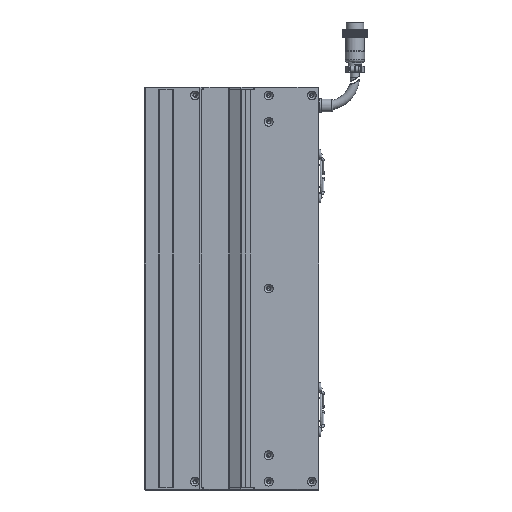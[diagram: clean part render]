
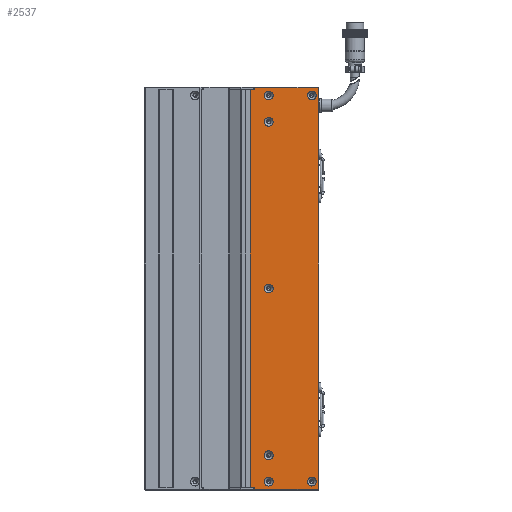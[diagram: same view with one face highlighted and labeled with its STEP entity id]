
A CAD part, left-side view. The second image highlights one B-rep face of the part: STEP entity #2537.
In plain terms, the highlighted planar face has unit normal (-1, 0, 0).
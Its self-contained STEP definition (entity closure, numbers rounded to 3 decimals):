
#117 = LINE ( 'NONE', #54051, #23086 ) ;
#165 = DIRECTION ( 'NONE',  ( 0., 0., 1. ) ) ;
#2537 = ADVANCED_FACE ( 'NONE', ( #95445, #55581, #29406, #118487, #30888, #3222, #103081, #104698 ), #124365, .F. ) ;
#2708 = EDGE_CURVE ( 'NONE', #81108, #85988, #86073, .T. ) ;
#3222 = FACE_BOUND ( 'NONE', #104048, .T. ) ;
#3223 = ORIENTED_EDGE ( 'NONE', *, *, #87356, .F. ) ;
#3784 = EDGE_CURVE ( 'NONE', #117081, #117081, #32258, .T. ) ;
#3853 = CARTESIAN_POINT ( 'NONE',  ( -24.998, -72., 144.5 ) ) ;
#4009 = EDGE_CURVE ( 'NONE', #39329, #81108, #55338, .T. ) ;
#7783 = VERTEX_POINT ( 'NONE', #9653 ) ;
#8419 = DIRECTION ( 'NONE',  ( 0., 0., 1. ) ) ;
#8444 = AXIS2_PLACEMENT_3D ( 'NONE', #39330, #109680, #165 ) ;
#9653 = CARTESIAN_POINT ( 'NONE',  ( -24.998, -36.5, 123.15 ) ) ;
#12363 = DIRECTION ( 'NONE',  ( 0., 0., 1. ) ) ;
#14061 = VERTEX_POINT ( 'NONE', #55699 ) ;
#14857 = CIRCLE ( 'NONE', #53828, 3.15 ) ;
#15333 = EDGE_CURVE ( 'NONE', #73959, #73959, #39363, .T. ) ;
#15488 = VECTOR ( 'NONE', #95346, 1000. ) ;
#15580 = EDGE_CURVE ( 'NONE', #41734, #41734, #33020, .T. ) ;
#15769 = CARTESIAN_POINT ( 'NONE',  ( -24.998, -36.5, 139. ) ) ;
#17710 = ORIENTED_EDGE ( 'NONE', *, *, #55263, .F. ) ;
#17876 = VECTOR ( 'NONE', #75688, 1000. ) ;
#21539 = AXIS2_PLACEMENT_3D ( 'NONE', #23430, #81905, #53592 ) ;
#22791 = EDGE_CURVE ( 'NONE', #124082, #103274, #117, .T. ) ;
#23086 = VECTOR ( 'NONE', #33440, 1000. ) ;
#23430 = CARTESIAN_POINT ( 'NONE',  ( -24.998, -36.5, -139. ) ) ;
#23436 = CARTESIAN_POINT ( 'NONE',  ( -24.998, -26.5, -144.5 ) ) ;
#23473 = CARTESIAN_POINT ( 'NONE',  ( -24.998, -72.5, -143. ) ) ;
#25821 = DIRECTION ( 'NONE',  ( -1., 0., 0. ) ) ;
#26589 = CARTESIAN_POINT ( 'NONE',  ( -24.998, -72.5, 143. ) ) ;
#28017 = CARTESIAN_POINT ( 'NONE',  ( -24.998, -72., 143. ) ) ;
#29149 = EDGE_CURVE ( 'NONE', #103274, #64843, #110201, .T. ) ;
#29406 = FACE_BOUND ( 'NONE', #100670, .T. ) ;
#29480 = ORIENTED_EDGE ( 'NONE', *, *, #47840, .F. ) ;
#29822 = EDGE_CURVE ( 'NONE', #39329, #124082, #108650, .T. ) ;
#30253 = CARTESIAN_POINT ( 'NONE',  ( -24.998, -67.5, 142.15 ) ) ;
#30888 = FACE_BOUND ( 'NONE', #109358, .T. ) ;
#31416 = AXIS2_PLACEMENT_3D ( 'NONE', #15769, #45038, #44606 ) ;
#31903 = EDGE_CURVE ( 'NONE', #14061, #14061, #47029, .T. ) ;
#32258 = CIRCLE ( 'NONE', #102008, 3.15 ) ;
#32556 = CIRCLE ( 'NONE', #31416, 3.15 ) ;
#33020 = CIRCLE ( 'NONE', #93105, 3.15 ) ;
#33440 = DIRECTION ( 'NONE',  ( 0., 1., 0. ) ) ;
#33467 = DIRECTION ( 'NONE',  ( 0., -1., 0. ) ) ;
#34224 = CARTESIAN_POINT ( 'NONE',  ( -24.998, -26.5, 136. ) ) ;
#36287 = EDGE_LOOP ( 'NONE', ( #50768 ) ) ;
#36760 = CARTESIAN_POINT ( 'NONE',  ( -24.998, -67.5, -135.85 ) ) ;
#38373 = ORIENTED_EDGE ( 'NONE', *, *, #4009, .F. ) ;
#39164 = EDGE_CURVE ( 'NONE', #106536, #85988, #40185, .T. ) ;
#39329 = VERTEX_POINT ( 'NONE', #96081 ) ;
#39330 = CARTESIAN_POINT ( 'NONE',  ( -24.998, -67.5, 139. ) ) ;
#39363 = CIRCLE ( 'NONE', #97192, 3.15 ) ;
#40185 = LINE ( 'NONE', #23473, #121518 ) ;
#41734 = VERTEX_POINT ( 'NONE', #75798 ) ;
#41927 = CARTESIAN_POINT ( 'NONE',  ( -24.998, -36.5, -120. ) ) ;
#42362 = DIRECTION ( 'NONE',  ( -1., 0., 0. ) ) ;
#44606 = DIRECTION ( 'NONE',  ( 0., 0., 1. ) ) ;
#45038 = DIRECTION ( 'NONE',  ( -1., 0., 0. ) ) ;
#47029 = CIRCLE ( 'NONE', #21539, 3.15 ) ;
#47086 = ORIENTED_EDGE ( 'NONE', *, *, #29822, .T. ) ;
#47840 = EDGE_CURVE ( 'NONE', #7783, #7783, #14857, .T. ) ;
#50104 = ORIENTED_EDGE ( 'NONE', *, *, #57730, .F. ) ;
#50768 = ORIENTED_EDGE ( 'NONE', *, *, #84989, .F. ) ;
#51254 = CARTESIAN_POINT ( 'NONE',  ( -24.998, -36.5, 142.15 ) ) ;
#51769 = CARTESIAN_POINT ( 'NONE',  ( -24.998, -23.25, 143. ) ) ;
#52343 = VECTOR ( 'NONE', #70186, 1000. ) ;
#53592 = DIRECTION ( 'NONE',  ( 0., 0., 1. ) ) ;
#53828 = AXIS2_PLACEMENT_3D ( 'NONE', #103169, #25821, #122031 ) ;
#54051 = CARTESIAN_POINT ( 'NONE',  ( -24.998, -72.5, 144.5 ) ) ;
#54452 = DIRECTION ( 'NONE',  ( 1., 0., 0. ) ) ;
#54602 = CARTESIAN_POINT ( 'NONE',  ( -24.998, -26.5, 144.5 ) ) ;
#55263 = EDGE_CURVE ( 'NONE', #89691, #64843, #119953, .T. ) ;
#55338 = LINE ( 'NONE', #108930, #116745 ) ;
#55581 = FACE_BOUND ( 'NONE', #71990, .T. ) ;
#55699 = CARTESIAN_POINT ( 'NONE',  ( -24.998, -36.5, -135.85 ) ) ;
#57010 = CARTESIAN_POINT ( 'NONE',  ( -24.998, -36.5, 0. ) ) ;
#57730 = EDGE_CURVE ( 'NONE', #106536, #89691, #116795, .T. ) ;
#58270 = CARTESIAN_POINT ( 'NONE',  ( -24.998, -26.5, -136. ) ) ;
#60660 = EDGE_LOOP ( 'NONE', ( #75542 ) ) ;
#61848 = CARTESIAN_POINT ( 'NONE',  ( -24.998, -23.25, -143. ) ) ;
#63198 = CIRCLE ( 'NONE', #8444, 3.15 ) ;
#64843 = VERTEX_POINT ( 'NONE', #85338 ) ;
#67576 = AXIS2_PLACEMENT_3D ( 'NONE', #93924, #54452, #113658 ) ;
#68678 = ORIENTED_EDGE ( 'NONE', *, *, #31903, .F. ) ;
#69770 = DIRECTION ( 'NONE',  ( 0., 1., 0. ) ) ;
#70186 = DIRECTION ( 'NONE',  ( 0., 0., 1. ) ) ;
#70660 = ORIENTED_EDGE ( 'NONE', *, *, #2708, .F. ) ;
#71707 = ORIENTED_EDGE ( 'NONE', *, *, #3784, .F. ) ;
#71990 = EDGE_LOOP ( 'NONE', ( #68678 ) ) ;
#72027 = DIRECTION ( 'NONE',  ( -1., 0., 0. ) ) ;
#72260 = ORIENTED_EDGE ( 'NONE', *, *, #29149, .T. ) ;
#73959 = VERTEX_POINT ( 'NONE', #36760 ) ;
#75295 = VERTEX_POINT ( 'NONE', #51254 ) ;
#75542 = ORIENTED_EDGE ( 'NONE', *, *, #15333, .F. ) ;
#75577 = CARTESIAN_POINT ( 'NONE',  ( -24.998, -36.5, 3.15 ) ) ;
#75688 = DIRECTION ( 'NONE',  ( 0., 0., 1. ) ) ;
#75798 = CARTESIAN_POINT ( 'NONE',  ( -24.998, -36.5, -116.85 ) ) ;
#77089 = ORIENTED_EDGE ( 'NONE', *, *, #22791, .T. ) ;
#77485 = CARTESIAN_POINT ( 'NONE',  ( -24.998, -26.5, -143. ) ) ;
#78304 = EDGE_LOOP ( 'NONE', ( #71707 ) ) ;
#81108 = VERTEX_POINT ( 'NONE', #23436 ) ;
#81905 = DIRECTION ( 'NONE',  ( -1., 0., 0. ) ) ;
#84989 = EDGE_CURVE ( 'NONE', #75295, #75295, #32556, .T. ) ;
#85338 = CARTESIAN_POINT ( 'NONE',  ( -24.998, -26.5, 143. ) ) ;
#85988 = VERTEX_POINT ( 'NONE', #77485 ) ;
#86073 = LINE ( 'NONE', #58270, #52343 ) ;
#87356 = EDGE_CURVE ( 'NONE', #124475, #124475, #63198, .T. ) ;
#89691 = VERTEX_POINT ( 'NONE', #51769 ) ;
#91371 = ORIENTED_EDGE ( 'NONE', *, *, #15580, .F. ) ;
#91688 = DIRECTION ( 'NONE',  ( 0., 0., 1. ) ) ;
#93105 = AXIS2_PLACEMENT_3D ( 'NONE', #41927, #42362, #91688 ) ;
#93924 = CARTESIAN_POINT ( 'NONE',  ( -24.998, -72.5, 143. ) ) ;
#94811 = DIRECTION ( 'NONE',  ( -1., 0., 0. ) ) ;
#95346 = DIRECTION ( 'NONE',  ( 0., -1., 0. ) ) ;
#95445 = FACE_BOUND ( 'NONE', #60660, .T. ) ;
#96081 = CARTESIAN_POINT ( 'NONE',  ( -24.998, -72., -144.5 ) ) ;
#96162 = EDGE_LOOP ( 'NONE', ( #124117, #70660, #38373, #47086, #77089, #72260, #17710, #50104 ) ) ;
#97192 = AXIS2_PLACEMENT_3D ( 'NONE', #99941, #72027, #12363 ) ;
#99941 = CARTESIAN_POINT ( 'NONE',  ( -24.998, -67.5, -139. ) ) ;
#100670 = EDGE_LOOP ( 'NONE', ( #3223 ) ) ;
#102008 = AXIS2_PLACEMENT_3D ( 'NONE', #57010, #94811, #8419 ) ;
#103081 = FACE_BOUND ( 'NONE', #78304, .T. ) ;
#103169 = CARTESIAN_POINT ( 'NONE',  ( -24.998, -36.5, 120. ) ) ;
#103274 = VERTEX_POINT ( 'NONE', #54602 ) ;
#104048 = EDGE_LOOP ( 'NONE', ( #91371 ) ) ;
#104698 = FACE_OUTER_BOUND ( 'NONE', #96162, .T. ) ;
#106536 = VERTEX_POINT ( 'NONE', #118750 ) ;
#108650 = LINE ( 'NONE', #28017, #17876 ) ;
#108930 = CARTESIAN_POINT ( 'NONE',  ( -24.998, -72.5, -144.5 ) ) ;
#109358 = EDGE_LOOP ( 'NONE', ( #29480 ) ) ;
#109680 = DIRECTION ( 'NONE',  ( -1., 0., 0. ) ) ;
#110201 = LINE ( 'NONE', #34224, #116332 ) ;
#113658 = DIRECTION ( 'NONE',  ( 0., 0., -1. ) ) ;
#116332 = VECTOR ( 'NONE', #121323, 1000. ) ;
#116745 = VECTOR ( 'NONE', #69770, 1000. ) ;
#116795 = LINE ( 'NONE', #61848, #121322 ) ;
#117081 = VERTEX_POINT ( 'NONE', #75577 ) ;
#118487 = FACE_BOUND ( 'NONE', #36287, .T. ) ;
#118750 = CARTESIAN_POINT ( 'NONE',  ( -24.998, -23.25, -143. ) ) ;
#119953 = LINE ( 'NONE', #26589, #15488 ) ;
#121322 = VECTOR ( 'NONE', #121911, 1000. ) ;
#121323 = DIRECTION ( 'NONE',  ( 0., 0., -1. ) ) ;
#121518 = VECTOR ( 'NONE', #33467, 1000. ) ;
#121911 = DIRECTION ( 'NONE',  ( 0., 0., 1. ) ) ;
#122031 = DIRECTION ( 'NONE',  ( 0., 0., 1. ) ) ;
#124082 = VERTEX_POINT ( 'NONE', #3853 ) ;
#124117 = ORIENTED_EDGE ( 'NONE', *, *, #39164, .T. ) ;
#124365 = PLANE ( 'NONE',  #67576 ) ;
#124475 = VERTEX_POINT ( 'NONE', #30253 ) ;
